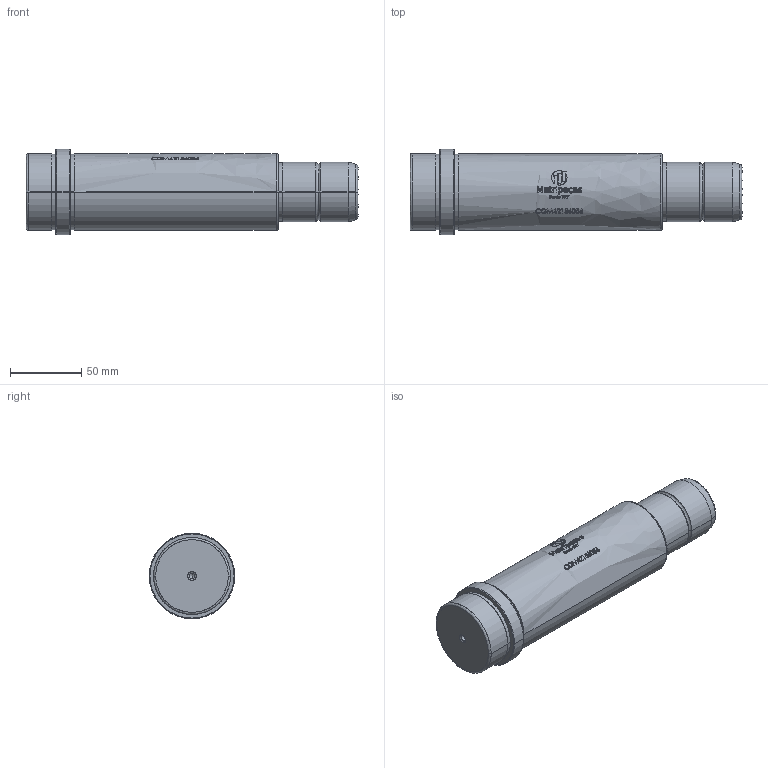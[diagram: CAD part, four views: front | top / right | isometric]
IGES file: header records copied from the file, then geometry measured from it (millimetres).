
Start section: SolidWorks IGES file using analytic representation for surfaces
Global section: file name: E:\1.TRIVECTOR\Clientes\MATRIPEÇAS\PEÇAS_CATALOGO_SITE\6.CGM - COLUNA PRINCIPAL TIPO GUIA (CATÁLOGO)\CGM42156056.IGS; native system: SolidWorks 2024; preprocessor: SolidWorks 2024; author: Gabriel Techio; date: 260910.150105; units: millimetre
Bounding box: 233 x 60 x 60 mm (x, y, z)
Surface area: 43484.2 mm2 (no closed solid volume)
Topology: 0 solids, 0 shells, 492 faces, 6186 edges, 6182 vertices
Faces by surface type: bspline 411, revolution 81
